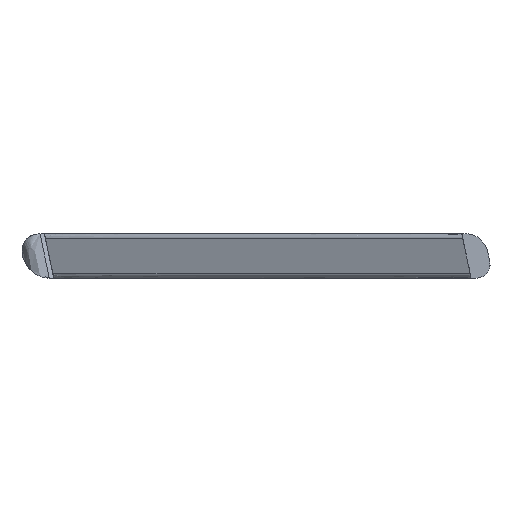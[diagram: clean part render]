
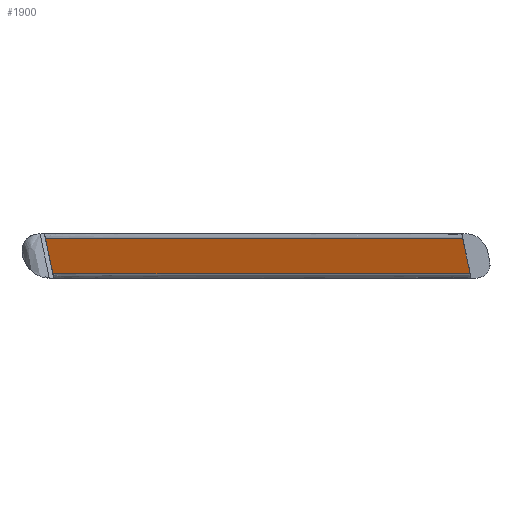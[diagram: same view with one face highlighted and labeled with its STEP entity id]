
A CAD part, left-side view. The second image highlights one B-rep face of the part: STEP entity #1900.
In plain terms, the highlighted free-form (B-spline) face has degree [1, 1] with [2, 2] control points.
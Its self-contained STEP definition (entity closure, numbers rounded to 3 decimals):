
#272 = EDGE_CURVE('',#273,#275,#277,.T.);
#273 = VERTEX_POINT('',#274);
#274 = CARTESIAN_POINT('',(-123.459,-49.589,9.));
#275 = VERTEX_POINT('',#276);
#276 = CARTESIAN_POINT('',(-123.459,-51.289,1.));
#277 = B_SPLINE_CURVE_WITH_KNOTS('',1,(#278,#279),.UNSPECIFIED.,.F.,.F.,
  (2,2),(-9.,-1.),.PIECEWISE_BEZIER_KNOTS.);
#278 = CARTESIAN_POINT('',(-123.459,-49.589,9.));
#279 = CARTESIAN_POINT('',(-123.459,-51.289,1.));
#760 = VERTEX_POINT('',#761);
#761 = CARTESIAN_POINT('',(-89.257,42.68,1.));
#769 = EDGE_CURVE('',#760,#275,#770,.T.);
#770 = B_SPLINE_CURVE_WITH_KNOTS('',1,(#771,#772),.UNSPECIFIED.,.F.,.F.,
  (2,2),(0.,100.),.PIECEWISE_BEZIER_KNOTS.);
#771 = CARTESIAN_POINT('',(-89.257,42.68,1.));
#772 = CARTESIAN_POINT('',(-123.459,-51.289,1.));
#802 = EDGE_CURVE('',#760,#803,#805,.T.);
#803 = VERTEX_POINT('',#804);
#804 = CARTESIAN_POINT('',(-89.257,44.38,9.));
#805 = B_SPLINE_CURVE_WITH_KNOTS('',1,(#806,#807),.UNSPECIFIED.,.F.,.F.,
  (2,2),(1.,9.),.PIECEWISE_BEZIER_KNOTS.);
#806 = CARTESIAN_POINT('',(-89.257,42.68,1.));
#807 = CARTESIAN_POINT('',(-89.257,44.38,9.));
#1900 = ADVANCED_FACE('',(#1901),#1911,.T.);
#1901 = FACE_BOUND('',#1902,.T.);
#1902 = EDGE_LOOP('',(#1903,#1904,#1905,#1906));
#1903 = ORIENTED_EDGE('',*,*,#802,.F.);
#1904 = ORIENTED_EDGE('',*,*,#769,.T.);
#1905 = ORIENTED_EDGE('',*,*,#272,.F.);
#1906 = ORIENTED_EDGE('',*,*,#1907,.F.);
#1907 = EDGE_CURVE('',#803,#273,#1908,.T.);
#1908 = B_SPLINE_CURVE_WITH_KNOTS('',1,(#1909,#1910),.UNSPECIFIED.,.F.,
  .F.,(2,2),(0.,100.),.PIECEWISE_BEZIER_KNOTS.);
#1909 = CARTESIAN_POINT('',(-89.257,44.38,9.));
#1910 = CARTESIAN_POINT('',(-123.459,-49.589,9.));
#1911 = B_SPLINE_SURFACE_WITH_KNOTS('',1,1,(
    (#1912,#1913)
    ,(#1914,#1915
    )),.UNSPECIFIED.,.F.,.F.,.F.,(2,2),(2,2),(-49.272,
    50.728),(-4.,4.),.PIECEWISE_BEZIER_KNOTS.);
#1912 = CARTESIAN_POINT('',(-89.257,42.68,1.));
#1913 = CARTESIAN_POINT('',(-89.257,44.38,9.));
#1914 = CARTESIAN_POINT('',(-123.459,-51.289,1.));
#1915 = CARTESIAN_POINT('',(-123.459,-49.589,9.));
